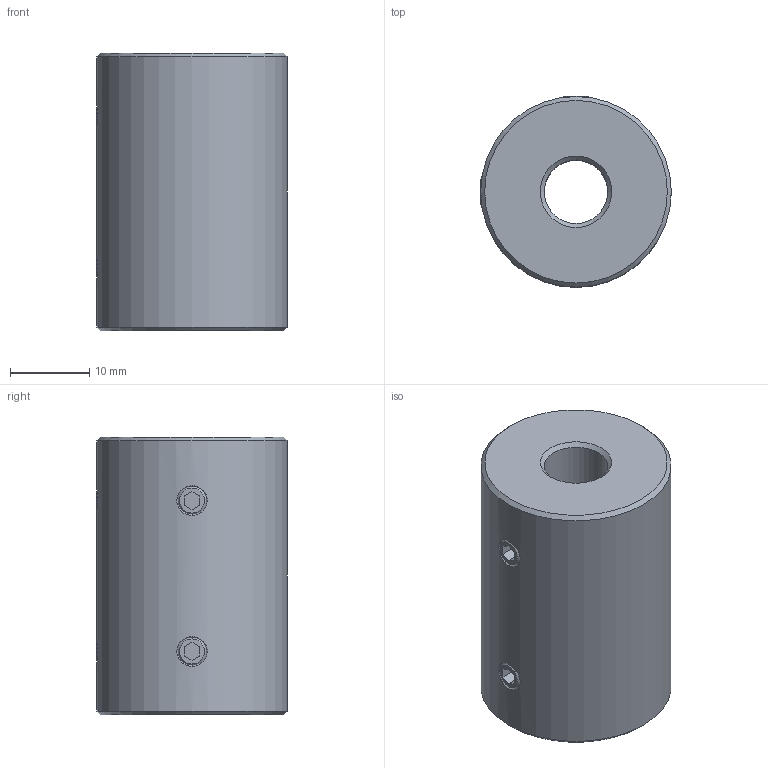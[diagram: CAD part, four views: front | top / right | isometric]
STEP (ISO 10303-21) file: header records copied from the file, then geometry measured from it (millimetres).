
FILE_DESCRIPTION (( 'STEP AP214' ), '1' );
FILE_NAME ('KBST1-VA-8.STEP', '2025-07-29T06:48:59', ( '' ), ( '' ), 'SwSTEP 2.0', 'SolidWorks 2024', '' );
FILE_SCHEMA (( 'AUTOMOTIVE_DESIGN' ));
Length unit declared in the file: millimetre
Products named in the file (1): KBST1-VA-8
Bounding box: 24 x 24 x 35 mm (x, y, z)
Volume: 14230.9 mm3; surface area: 5098.3 mm2
Topology: 5 solids, 5 shells, 80 faces, 178 edges, 104 vertices
Faces by surface type: plane 34, cone 28, cylinder 14, bspline 4
Full cylindrical faces by diameter (mm): 3.3 x4, 8 x1, 24 x1
Entity records: 7211 total; most frequent: CARTESIAN_POINT 4589, DIRECTION 338, ORIENTED_EDGE 312, EDGE_CURVE 156, AXIS2_PLACEMENT_3D 117, EDGE_LOOP 108, LINE 104, VERTEX_POINT 104
